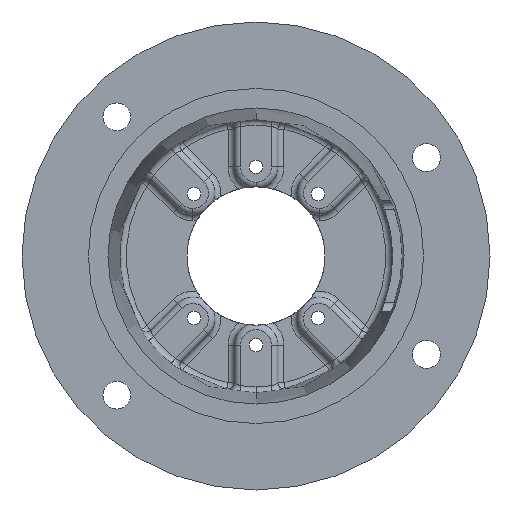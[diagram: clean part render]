
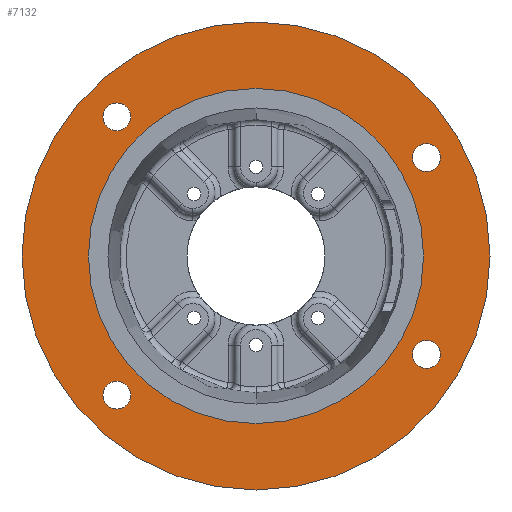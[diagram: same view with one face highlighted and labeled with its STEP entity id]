
A CAD part, front view. The second image highlights one B-rep face of the part: STEP entity #7132.
In plain terms, the highlighted planar face has unit normal (0, -1, 0).
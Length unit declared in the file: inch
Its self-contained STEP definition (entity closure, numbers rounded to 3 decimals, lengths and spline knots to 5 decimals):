
#614 = DIRECTION ( 'NONE',  ( 0., 0., -1. ) ) ;
#619 = DIRECTION ( 'NONE',  ( 0., -1., 0. ) ) ;
#703 = CARTESIAN_POINT ( 'NONE',  ( 4.00537, 0., -1.98438 ) ) ;
#837 = EDGE_LOOP ( 'NONE', ( #11603, #11919 ) ) ;
#890 = DIRECTION ( 'NONE',  ( 0., -1., 0. ) ) ;
#1226 = FACE_OUTER_BOUND ( 'NONE', #3583, .T. ) ;
#1314 = EDGE_CURVE ( 'NONE', #7998, #4301, #12922, .T. ) ;
#1340 = EDGE_CURVE ( 'NONE', #4618, #12984, #7173, .T. ) ;
#1498 = VERTEX_POINT ( 'NONE', #6807 ) ;
#1590 = FACE_BOUND ( 'NONE', #2461, .T. ) ;
#1600 = ORIENTED_EDGE ( 'NONE', *, *, #3869, .F. ) ;
#1837 = CIRCLE ( 'NONE', #4229, 0.32812 ) ;
#1853 = CIRCLE ( 'NONE', #10482, 3.9385 ) ;
#1870 = AXIS2_PLACEMENT_3D ( 'NONE', #13800, #7310, #614 ) ;
#1915 = FACE_BOUND ( 'NONE', #837, .T. ) ;
#2461 = EDGE_LOOP ( 'NONE', ( #4288, #10935 ) ) ;
#2600 = ORIENTED_EDGE ( 'NONE', *, *, #7032, .F. ) ;
#2834 = VERTEX_POINT ( 'NONE', #7035 ) ;
#3093 = DIRECTION ( 'NONE',  ( 0., 1., 0. ) ) ;
#3419 = DIRECTION ( 'NONE',  ( 0., -1., 0. ) ) ;
#3583 = EDGE_LOOP ( 'NONE', ( #11032, #6556 ) ) ;
#3810 = ORIENTED_EDGE ( 'NONE', *, *, #9965, .F. ) ;
#3869 = EDGE_CURVE ( 'NONE', #4301, #7998, #6102, .T. ) ;
#3879 = DIRECTION ( 'NONE',  ( 0., 0., -1. ) ) ;
#3892 = DIRECTION ( 'NONE',  ( 0., -1., 0. ) ) ;
#3895 = DIRECTION ( 'NONE',  ( 0., -1., 0. ) ) ;
#3907 = CARTESIAN_POINT ( 'NONE',  ( -3.27037, 0., 3.27037 ) ) ;
#3908 = CARTESIAN_POINT ( 'NONE',  ( 4.00537, 0., 2.64062 ) ) ;
#4089 = CARTESIAN_POINT ( 'NONE',  ( -5.5, 0., 0. ) ) ;
#4200 = FACE_BOUND ( 'NONE', #10015, .T. ) ;
#4229 = AXIS2_PLACEMENT_3D ( 'NONE', #10487, #3892, #11568 ) ;
#4288 = ORIENTED_EDGE ( 'NONE', *, *, #1340, .F. ) ;
#4301 = VERTEX_POINT ( 'NONE', #8763 ) ;
#4317 = CARTESIAN_POINT ( 'NONE',  ( 0., 0., 0. ) ) ;
#4618 = VERTEX_POINT ( 'NONE', #7109 ) ;
#4640 = CARTESIAN_POINT ( 'NONE',  ( -3.27037, 0., -2.94224 ) ) ;
#4810 = CIRCLE ( 'NONE', #14257, 0.32812 ) ;
#5011 = CARTESIAN_POINT ( 'NONE',  ( 4.00537, 0., 1.98437 ) ) ;
#5012 = EDGE_LOOP ( 'NONE', ( #1600, #6385 ) ) ;
#5435 = DIRECTION ( 'NONE',  ( 0., 0., -1. ) ) ;
#5648 = EDGE_CURVE ( 'NONE', #12984, #4618, #6858, .T. ) ;
#5654 = CARTESIAN_POINT ( 'NONE',  ( 0., 0., 0. ) ) ;
#5953 = CIRCLE ( 'NONE', #8663, 3.9385 ) ;
#6102 = CIRCLE ( 'NONE', #8794, 0.32812 ) ;
#6152 = AXIS2_PLACEMENT_3D ( 'NONE', #10061, #3419, #11131 ) ;
#6168 = AXIS2_PLACEMENT_3D ( 'NONE', #7563, #890, #8649 ) ;
#6254 = EDGE_CURVE ( 'NONE', #7959, #12488, #5953, .T. ) ;
#6326 = CARTESIAN_POINT ( 'NONE',  ( -3.27037, 0., -3.27037 ) ) ;
#6385 = ORIENTED_EDGE ( 'NONE', *, *, #1314, .F. ) ;
#6491 = EDGE_CURVE ( 'NONE', #2834, #13296, #9745, .T. ) ;
#6496 = CARTESIAN_POINT ( 'NONE',  ( 0., 0., 0. ) ) ;
#6556 = ORIENTED_EDGE ( 'NONE', *, *, #6491, .T. ) ;
#6579 = CIRCLE ( 'NONE', #13159, 5.5 ) ;
#6616 = CARTESIAN_POINT ( 'NONE',  ( 0., 0., -3.9385 ) ) ;
#6779 = ORIENTED_EDGE ( 'NONE', *, *, #13475, .F. ) ;
#6804 = DIRECTION ( 'NONE',  ( 0., 0., -1. ) ) ;
#6807 = CARTESIAN_POINT ( 'NONE',  ( 4.00537, 0., -2.64063 ) ) ;
#6858 = CIRCLE ( 'NONE', #7738, 0.32812 ) ;
#7032 = EDGE_CURVE ( 'NONE', #13422, #7972, #13616, .T. ) ;
#7035 = CARTESIAN_POINT ( 'NONE',  ( 0., 0., 5.5 ) ) ;
#7109 = CARTESIAN_POINT ( 'NONE',  ( -3.27037, 0., -3.59849 ) ) ;
#7132 = ADVANCED_FACE ( 'NONE', ( #10066, #1915, #1590, #7172, #4200, #1226 ), #7544, .F. ) ;
#7172 = FACE_BOUND ( 'NONE', #5012, .T. ) ;
#7173 = CIRCLE ( 'NONE', #9699, 0.32812 ) ;
#7310 = DIRECTION ( 'NONE',  ( 0., -1., 0. ) ) ;
#7312 = CARTESIAN_POINT ( 'NONE',  ( 4.00537, 0., 2.3125 ) ) ;
#7441 = DIRECTION ( 'NONE',  ( 0., 0., -1. ) ) ;
#7522 = VERTEX_POINT ( 'NONE', #703 ) ;
#7544 = PLANE ( 'NONE',  #9316 ) ;
#7563 = CARTESIAN_POINT ( 'NONE',  ( 0., 0., 0. ) ) ;
#7601 = DIRECTION ( 'NONE',  ( 0., 0., -1. ) ) ;
#7738 = AXIS2_PLACEMENT_3D ( 'NONE', #6326, #13944, #7441 ) ;
#7959 = VERTEX_POINT ( 'NONE', #13704 ) ;
#7972 = VERTEX_POINT ( 'NONE', #3908 ) ;
#7998 = VERTEX_POINT ( 'NONE', #13759 ) ;
#8399 = DIRECTION ( 'NONE',  ( 0., 0., -1. ) ) ;
#8649 = DIRECTION ( 'NONE',  ( 0., 0., -1. ) ) ;
#8663 = AXIS2_PLACEMENT_3D ( 'NONE', #5654, #13291, #6804 ) ;
#8763 = CARTESIAN_POINT ( 'NONE',  ( -3.27037, 0., 2.94224 ) ) ;
#8794 = AXIS2_PLACEMENT_3D ( 'NONE', #3907, #3895, #3879 ) ;
#8954 = AXIS2_PLACEMENT_3D ( 'NONE', #10869, #10917, #13367 ) ;
#9150 = EDGE_CURVE ( 'NONE', #7522, #1498, #13909, .T. ) ;
#9316 = AXIS2_PLACEMENT_3D ( 'NONE', #4089, #3093, #10810 ) ;
#9699 = AXIS2_PLACEMENT_3D ( 'NONE', #9999, #10097, #9953 ) ;
#9745 = CIRCLE ( 'NONE', #6168, 5.5 ) ;
#9829 = EDGE_LOOP ( 'NONE', ( #2600, #6779 ) ) ;
#9953 = DIRECTION ( 'NONE',  ( 0., 0., -1. ) ) ;
#9965 = EDGE_CURVE ( 'NONE', #12488, #7959, #1853, .T. ) ;
#9999 = CARTESIAN_POINT ( 'NONE',  ( -3.27037, 0., -3.27037 ) ) ;
#10015 = EDGE_LOOP ( 'NONE', ( #3810, #10420 ) ) ;
#10061 = CARTESIAN_POINT ( 'NONE',  ( 4.00537, 0., -2.3125 ) ) ;
#10066 = FACE_BOUND ( 'NONE', #9829, .T. ) ;
#10097 = DIRECTION ( 'NONE',  ( 0., -1., 0. ) ) ;
#10420 = ORIENTED_EDGE ( 'NONE', *, *, #6254, .F. ) ;
#10482 = AXIS2_PLACEMENT_3D ( 'NONE', #6496, #14092, #7601 ) ;
#10487 = CARTESIAN_POINT ( 'NONE',  ( 4.00537, 0., -2.3125 ) ) ;
#10810 = DIRECTION ( 'NONE',  ( 0., 0., 1. ) ) ;
#10854 = EDGE_CURVE ( 'NONE', #1498, #7522, #1837, .T. ) ;
#10869 = CARTESIAN_POINT ( 'NONE',  ( -3.27037, 0., 3.27037 ) ) ;
#10917 = DIRECTION ( 'NONE',  ( 0., -1., 0. ) ) ;
#10935 = ORIENTED_EDGE ( 'NONE', *, *, #5648, .F. ) ;
#11032 = ORIENTED_EDGE ( 'NONE', *, *, #12376, .T. ) ;
#11131 = DIRECTION ( 'NONE',  ( 0., 0., -1. ) ) ;
#11568 = DIRECTION ( 'NONE',  ( 0., 0., -1. ) ) ;
#11603 = ORIENTED_EDGE ( 'NONE', *, *, #10854, .F. ) ;
#11919 = ORIENTED_EDGE ( 'NONE', *, *, #9150, .F. ) ;
#11986 = DIRECTION ( 'NONE',  ( 0., -1., 0. ) ) ;
#12376 = EDGE_CURVE ( 'NONE', #13296, #2834, #6579, .T. ) ;
#12488 = VERTEX_POINT ( 'NONE', #6616 ) ;
#12922 = CIRCLE ( 'NONE', #8954, 0.32812 ) ;
#12984 = VERTEX_POINT ( 'NONE', #4640 ) ;
#13159 = AXIS2_PLACEMENT_3D ( 'NONE', #4317, #11986, #5435 ) ;
#13291 = DIRECTION ( 'NONE',  ( 0., -1., 0. ) ) ;
#13296 = VERTEX_POINT ( 'NONE', #14220 ) ;
#13367 = DIRECTION ( 'NONE',  ( 0., 0., -1. ) ) ;
#13422 = VERTEX_POINT ( 'NONE', #5011 ) ;
#13475 = EDGE_CURVE ( 'NONE', #7972, #13422, #4810, .T. ) ;
#13616 = CIRCLE ( 'NONE', #1870, 0.32812 ) ;
#13704 = CARTESIAN_POINT ( 'NONE',  ( 0., 0., 3.9385 ) ) ;
#13759 = CARTESIAN_POINT ( 'NONE',  ( -3.27037, 0., 3.59849 ) ) ;
#13800 = CARTESIAN_POINT ( 'NONE',  ( 4.00537, 0., 2.3125 ) ) ;
#13909 = CIRCLE ( 'NONE', #6152, 0.32812 ) ;
#13944 = DIRECTION ( 'NONE',  ( 0., -1., 0. ) ) ;
#14092 = DIRECTION ( 'NONE',  ( 0., -1., 0. ) ) ;
#14220 = CARTESIAN_POINT ( 'NONE',  ( 0., 0., -5.5 ) ) ;
#14257 = AXIS2_PLACEMENT_3D ( 'NONE', #7312, #619, #8399 ) ;
